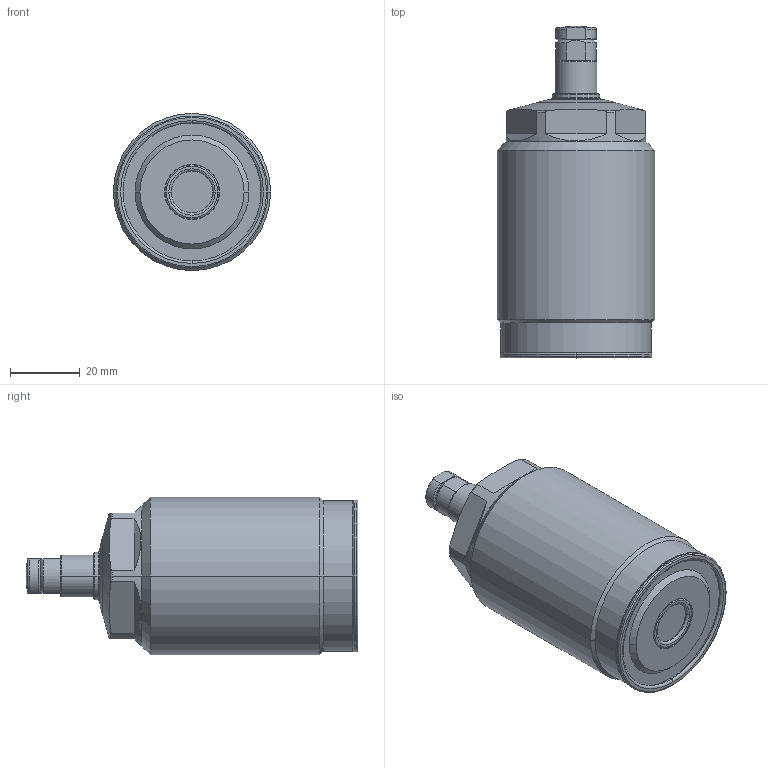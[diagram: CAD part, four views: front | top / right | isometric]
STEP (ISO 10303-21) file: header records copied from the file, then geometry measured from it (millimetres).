
FILE_DESCRIPTION(/* description */ (''),/* implementation_level */ '2;1');
FILE_NAME(/* name */ 'TNE45.stp',/* time_stamp */ '2022-11-17T13:47:44+08:00',/* author */ (''),/* organization */ (''),/* preprocessor_version */ 'ST-DEVELOPER v16.7',/* originating_system */ 'SIEMENS PLM Software NX 12.0',/* authorisation */ '');
FILE_SCHEMA (('AP203_CONFIGURATION_CONTROLLED_3D_DESIGN_OF_MECHANICAL_PARTS_AND_ASSEMBLIES_MIM_LF { 1 0 10303 403 2 1 2}'));
Length unit declared in the file: millimetre
Products named in the file (7): XLD-M8_Oring; XLD-M8_contactbolt; TNE45-01; TNE45-02; TNE45-04; TNE45-03; WNC3003-x-E_step
Assembly tree (6 placements, depth 3):
  WNC3003-x-E_step
    TNE45-04
    TNE45-02
    TNE45-01
    TNE45-03
      XLD-M8_contactbolt
      XLD-M8_Oring
Bounding box: 45 x 95 x 45 mm (x, y, z)
Volume: 109043.8 mm3; surface area: 15484.7 mm2
Topology: 5 solids, 5 shells, 158 faces, 348 edges, 210 vertices
Faces by surface type: torus 53, cylinder 42, plane 37, cone 24, sphere 2
Entity records: 5492 total; most frequent: CARTESIAN_POINT 1111, DIRECTION 858, ORIENTED_EDGE 696, AXIS2_PLACEMENT_3D 383, EDGE_CURVE 348, CIRCLE 218, VERTEX_POINT 210, EDGE_LOOP 174
